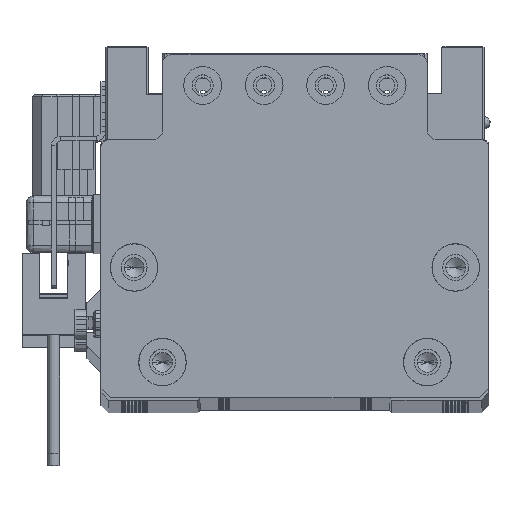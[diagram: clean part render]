
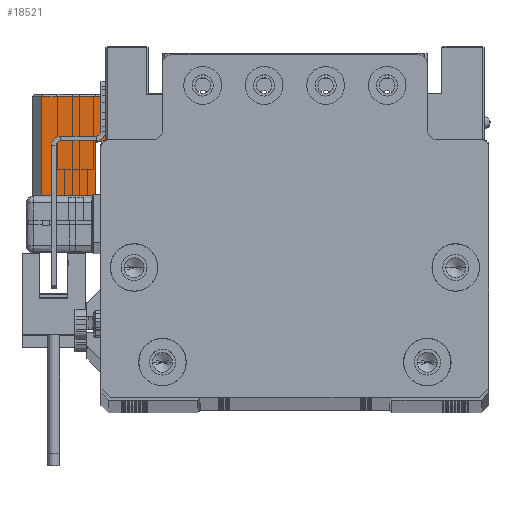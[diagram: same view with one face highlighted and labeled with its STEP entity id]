
A CAD part, top view. The second image highlights one B-rep face of the part: STEP entity #18521.
In plain terms, the highlighted planar face has unit normal (0, 0, 1) as drawn and (1, 0, 0) by its records, which use the part's own axes.
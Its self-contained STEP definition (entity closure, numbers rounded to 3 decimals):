
#811 = CARTESIAN_POINT ( 'NONE',  ( 17., -10.75, -15.5 ) ) ;
#842 = CARTESIAN_POINT ( 'NONE',  ( 17., 10.25, -2. ) ) ;
#1684 = ORIENTED_EDGE ( 'NONE', *, *, #12929, .F. ) ;
#2054 = DIRECTION ( 'NONE',  ( 0., 0., 1. ) ) ;
#2095 = ORIENTED_EDGE ( 'NONE', *, *, #20859, .T. ) ;
#2356 = CARTESIAN_POINT ( 'NONE',  ( 17., -10.75, -15.5 ) ) ;
#6386 = LINE ( 'NONE', #6718, #45837 ) ;
#6450 = EDGE_CURVE ( 'NONE', #41567, #35490, #6386, .T. ) ;
#6718 = CARTESIAN_POINT ( 'NONE',  ( 17., -10.75, -2. ) ) ;
#7963 = CARTESIAN_POINT ( 'NONE',  ( 17., -10.75, -2. ) ) ;
#8129 = CARTESIAN_POINT ( 'NONE',  ( 17., 10.25, -15.5 ) ) ;
#9343 = ORIENTED_EDGE ( 'NONE', *, *, #27073, .T. ) ;
#10598 = VERTEX_POINT ( 'NONE', #8129 ) ;
#11467 = DIRECTION ( 'NONE',  ( 0., 0., 1. ) ) ;
#11504 = VERTEX_POINT ( 'NONE', #13273 ) ;
#12929 = EDGE_CURVE ( 'NONE', #11504, #28969, #13227, .T. ) ;
#13227 = LINE ( 'NONE', #28499, #45981 ) ;
#13273 = CARTESIAN_POINT ( 'NONE',  ( 17., 0.75, -15.5 ) ) ;
#13830 = VECTOR ( 'NONE', #2054, 1000. ) ;
#14190 = DIRECTION ( 'NONE',  ( 1., 0., 0. ) ) ;
#14509 = PLANE ( 'NONE',  #20077 ) ;
#15068 = CARTESIAN_POINT ( 'NONE',  ( 17., -10.75, -13.3 ) ) ;
#16086 = LINE ( 'NONE', #37663, #37121 ) ;
#16695 = VECTOR ( 'NONE', #11467, 1000. ) ;
#16731 = DIRECTION ( 'NONE',  ( 0., -1., 0. ) ) ;
#17947 = LINE ( 'NONE', #2356, #64374 ) ;
#18521 = ADVANCED_FACE ( 'NONE', ( #26041 ), #14509, .T. ) ;
#18667 = EDGE_CURVE ( 'NONE', #28969, #24004, #16086, .T. ) ;
#19487 = CARTESIAN_POINT ( 'NONE',  ( 17., 0.75, -13.3 ) ) ;
#20077 = AXIS2_PLACEMENT_3D ( 'NONE', #811, #14190, #49775 ) ;
#20618 = ORIENTED_EDGE ( 'NONE', *, *, #42091, .F. ) ;
#20859 = EDGE_CURVE ( 'NONE', #10598, #41567, #63025, .T. ) ;
#23298 = ORIENTED_EDGE ( 'NONE', *, *, #18667, .F. ) ;
#24004 = VERTEX_POINT ( 'NONE', #15068 ) ;
#26041 = FACE_OUTER_BOUND ( 'NONE', #33131, .T. ) ;
#27073 = EDGE_CURVE ( 'NONE', #11504, #10598, #17947, .T. ) ;
#28499 = CARTESIAN_POINT ( 'NONE',  ( 17., 0.75, -15.5 ) ) ;
#28969 = VERTEX_POINT ( 'NONE', #19487 ) ;
#32605 = CARTESIAN_POINT ( 'NONE',  ( 17., -10.75, -15.5 ) ) ;
#32712 = CARTESIAN_POINT ( 'NONE',  ( 17., 10.25, -15.5 ) ) ;
#33131 = EDGE_LOOP ( 'NONE', ( #9343, #2095, #54474, #20618, #23298, #1684 ) ) ;
#35490 = VERTEX_POINT ( 'NONE', #7963 ) ;
#37121 = VECTOR ( 'NONE', #16731, 1000. ) ;
#37663 = CARTESIAN_POINT ( 'NONE',  ( 17., -10.75, -13.3 ) ) ;
#41567 = VERTEX_POINT ( 'NONE', #842 ) ;
#42091 = EDGE_CURVE ( 'NONE', #24004, #35490, #46957, .T. ) ;
#45837 = VECTOR ( 'NONE', #52265, 1000. ) ;
#45981 = VECTOR ( 'NONE', #59795, 1000. ) ;
#46957 = LINE ( 'NONE', #32605, #13830 ) ;
#49775 = DIRECTION ( 'NONE',  ( 0., 0., -1. ) ) ;
#52265 = DIRECTION ( 'NONE',  ( 0., -1., 0. ) ) ;
#54474 = ORIENTED_EDGE ( 'NONE', *, *, #6450, .T. ) ;
#59795 = DIRECTION ( 'NONE',  ( 0., 0., 1. ) ) ;
#63025 = LINE ( 'NONE', #32712, #16695 ) ;
#63535 = DIRECTION ( 'NONE',  ( 0., 1., 0. ) ) ;
#64374 = VECTOR ( 'NONE', #63535, 1000. ) ;
